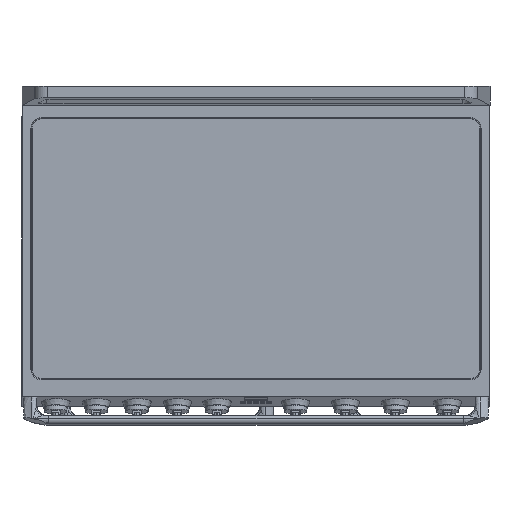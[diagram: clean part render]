
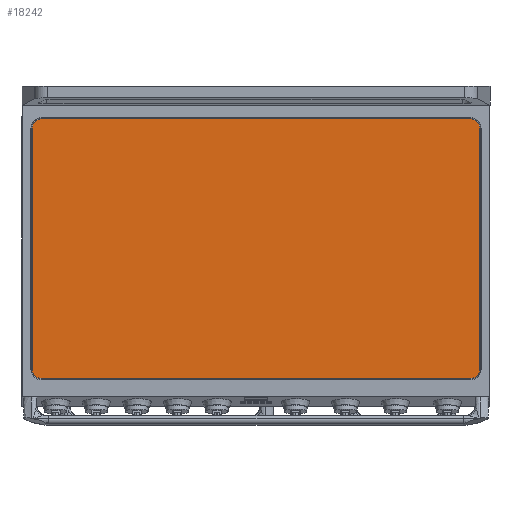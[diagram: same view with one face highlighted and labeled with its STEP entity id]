
A CAD part, top view. The second image highlights one B-rep face of the part: STEP entity #18242.
In plain terms, the highlighted planar face has unit normal (0, 0, 1).
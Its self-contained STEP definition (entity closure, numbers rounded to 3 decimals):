
#359=CIRCLE('',#19133,17.5);
#360=CIRCLE('',#19134,17.5);
#361=CIRCLE('',#19135,17.5);
#362=CIRCLE('',#19136,17.5);
#842=PLANE('',#19132);
#3085=ORIENTED_EDGE('',*,*,#6193,.F.);
#3086=ORIENTED_EDGE('',*,*,#6194,.T.);
#3087=ORIENTED_EDGE('',*,*,#6195,.F.);
#3088=ORIENTED_EDGE('',*,*,#6196,.T.);
#3089=ORIENTED_EDGE('',*,*,#6197,.F.);
#3090=ORIENTED_EDGE('',*,*,#6198,.T.);
#3091=ORIENTED_EDGE('',*,*,#6199,.F.);
#3092=ORIENTED_EDGE('',*,*,#6200,.T.);
#6193=EDGE_CURVE('',#7817,#7818,#8918,.T.);
#6194=EDGE_CURVE('',#7817,#7819,#359,.T.);
#6195=EDGE_CURVE('',#7820,#7819,#8919,.T.);
#6196=EDGE_CURVE('',#7820,#7821,#360,.T.);
#6197=EDGE_CURVE('',#7822,#7821,#8920,.T.);
#6198=EDGE_CURVE('',#7822,#7823,#361,.T.);
#6199=EDGE_CURVE('',#7824,#7823,#8921,.T.);
#6200=EDGE_CURVE('',#7824,#7818,#362,.T.);
#7817=VERTEX_POINT('',#29757);
#7818=VERTEX_POINT('',#29758);
#7819=VERTEX_POINT('',#29760);
#7820=VERTEX_POINT('',#29762);
#7821=VERTEX_POINT('',#29764);
#7822=VERTEX_POINT('',#29766);
#7823=VERTEX_POINT('',#29768);
#7824=VERTEX_POINT('',#29770);
#8918=LINE('',#29756,#9753);
#8919=LINE('',#29761,#9754);
#8920=LINE('',#29765,#9755);
#8921=LINE('',#29769,#9756);
#9753=VECTOR('',#20880,1000.);
#9754=VECTOR('',#20883,1000.);
#9755=VECTOR('',#20886,1000.);
#9756=VECTOR('',#20889,1000.);
#10618=EDGE_LOOP('',(#3085,#3086,#3087,#3088,#3089,#3090,#3091,#3092));
#11547=FACE_BOUND('',#10618,.T.);
#18242=ADVANCED_FACE('',(#11547),#842,.T.);
#19132=AXIS2_PLACEMENT_3D('',#29755,#20878,#20879);
#19133=AXIS2_PLACEMENT_3D('',#29759,#20881,#20882);
#19134=AXIS2_PLACEMENT_3D('',#29763,#20884,#20885);
#19135=AXIS2_PLACEMENT_3D('',#29767,#20887,#20888);
#19136=AXIS2_PLACEMENT_3D('',#29771,#20890,#20891);
#20878=DIRECTION('',(0.,0.,1.));
#20879=DIRECTION('',(1.,0.,0.));
#20880=DIRECTION('',(1.,0.,0.));
#20881=DIRECTION('',(0.,0.,1.));
#20882=DIRECTION('',(0.,-1.,0.));
#20883=DIRECTION('',(0.,1.,0.));
#20884=DIRECTION('',(0.,0.,1.));
#20885=DIRECTION('',(0.,-1.,0.));
#20886=DIRECTION('',(-1.,0.,0.));
#20887=DIRECTION('',(0.,0.,1.));
#20888=DIRECTION('',(0.,-1.,0.));
#20889=DIRECTION('',(0.,-1.,0.));
#20890=DIRECTION('',(0.,0.,1.));
#20891=DIRECTION('',(0.,-1.,0.));
#29755=CARTESIAN_POINT('',(283.887,411.716,459.165));
#29756=CARTESIAN_POINT('',(-129.113,661.216,459.165));
#29757=CARTESIAN_POINT('',(-129.113,661.216,459.165));
#29758=CARTESIAN_POINT('',(696.887,661.216,459.165));
#29759=CARTESIAN_POINT('',(-129.113,643.716,459.165));
#29760=CARTESIAN_POINT('',(-146.613,643.716,459.165));
#29761=CARTESIAN_POINT('',(-146.613,179.716,459.165));
#29762=CARTESIAN_POINT('',(-146.613,179.716,459.165));
#29763=CARTESIAN_POINT('',(-129.113,179.716,459.165));
#29764=CARTESIAN_POINT('',(-129.113,162.216,459.165));
#29765=CARTESIAN_POINT('',(696.887,162.216,459.165));
#29766=CARTESIAN_POINT('',(696.887,162.216,459.165));
#29767=CARTESIAN_POINT('',(696.887,179.716,459.165));
#29768=CARTESIAN_POINT('',(714.387,179.716,459.165));
#29769=CARTESIAN_POINT('',(714.387,643.716,459.165));
#29770=CARTESIAN_POINT('',(714.387,643.716,459.165));
#29771=CARTESIAN_POINT('',(696.887,643.716,459.165));
